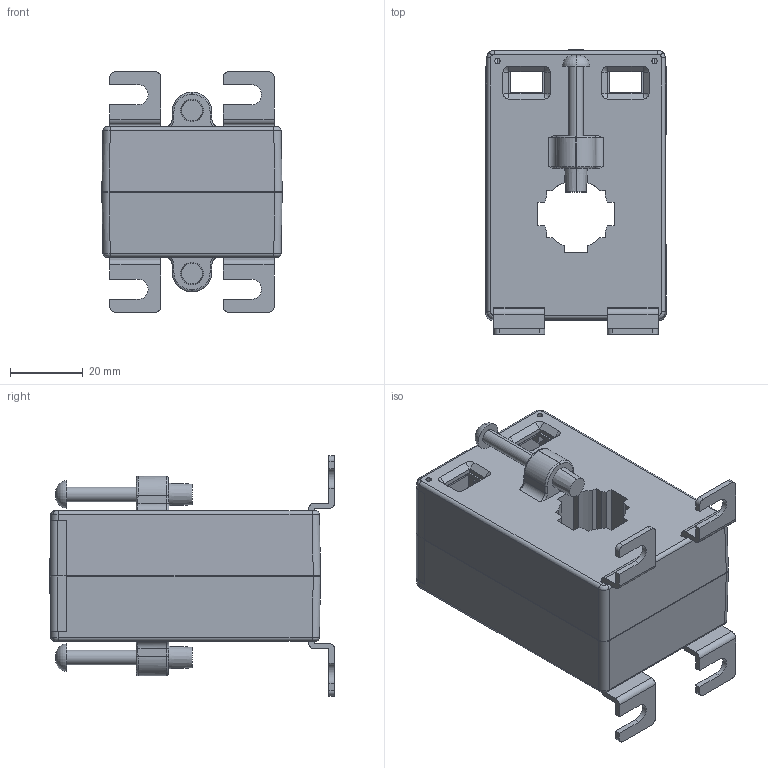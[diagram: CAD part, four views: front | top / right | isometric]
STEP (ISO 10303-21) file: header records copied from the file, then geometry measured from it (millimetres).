
FILE_DESCRIPTION (( 'STEP AP203' ), '1' );
FILE_NAME ('TU20PS.STEP', '2026-04-07T10:09:12', ( '' ), ( '' ), 'SwSTEP 2.0', 'SolidWorks 2022', '' );
FILE_SCHEMA (( 'CONFIG_CONTROL_DESIGN' ));
Length unit declared in the file: millimetre
Products named in the file (1): TU20PS
Bounding box: 49.58 x 78.23 x 66 mm (x, y, z)
Volume: 44359.3 mm3; surface area: 49632.9 mm2
Topology: 14 solids, 14 shells, 902 faces, 2444 edges, 1590 vertices
Faces by surface type: plane 610, cylinder 224, cone 32, bspline 28, sphere 4, torus 4
Entity records: 28799 total; most frequent: CARTESIAN_POINT 5993, ORIENTED_EDGE 4872, DIRECTION 4522, EDGE_CURVE 2436, VECTOR 1884, LINE 1884, VERTEX_POINT 1590, AXIS2_PLACEMENT_3D 1319
